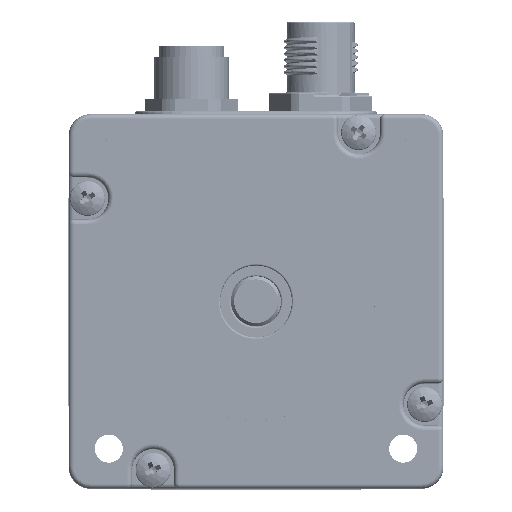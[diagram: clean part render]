
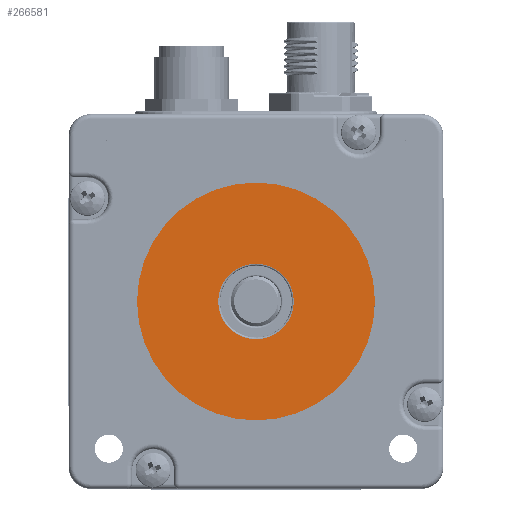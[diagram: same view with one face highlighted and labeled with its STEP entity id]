
A CAD part, top view. The second image highlights one B-rep face of the part: STEP entity #266581.
In plain terms, the highlighted planar face has unit normal (0, 0, 1).
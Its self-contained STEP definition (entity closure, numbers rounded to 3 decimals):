
#6707 = CARTESIAN_POINT ( 'NONE',  ( -98.952, 46.681, 35.1 ) ) ;
#18298 = AXIS2_PLACEMENT_3D ( 'NONE', #197115, #174592, #70292 ) ;
#24682 = ORIENTED_EDGE ( 'NONE', *, *, #243510, .T. ) ;
#25678 = DIRECTION ( 'NONE',  ( 0., 0., 1. ) ) ;
#28456 = FACE_OUTER_BOUND ( 'NONE', #83770, .T. ) ;
#35547 = DIRECTION ( 'NONE',  ( 0., 0., 1. ) ) ;
#41129 = CARTESIAN_POINT ( 'NONE',  ( -98.952, 46.681, 35.1 ) ) ;
#45501 = AXIS2_PLACEMENT_3D ( 'NONE', #224238, #142596, #187629 ) ;
#47167 = EDGE_CURVE ( 'NONE', #252727, #256942, #256593, .T. ) ;
#54110 = AXIS2_PLACEMENT_3D ( 'NONE', #41129, #35547, #121416 ) ;
#70292 = DIRECTION ( 'NONE',  ( 1., 0., 0. ) ) ;
#74551 = CARTESIAN_POINT ( 'NONE',  ( -118.002, 46.681, 35.1 ) ) ;
#77004 = DIRECTION ( 'NONE',  ( 0., 0., 1. ) ) ;
#83770 = EDGE_LOOP ( 'NONE', ( #239906, #188032 ) ) ;
#92506 = DIRECTION ( 'NONE',  ( 1., 0., 0. ) ) ;
#105235 = CARTESIAN_POINT ( 'NONE',  ( -79.902, 46.681, 35.1 ) ) ;
#108058 = CARTESIAN_POINT ( 'NONE',  ( -105.002, 46.681, 35.1 ) ) ;
#119287 = EDGE_CURVE ( 'NONE', #256942, #252727, #175555, .T. ) ;
#121416 = DIRECTION ( 'NONE',  ( 1., 0., 0. ) ) ;
#142596 = DIRECTION ( 'NONE',  ( 0., 0., -1. ) ) ;
#149155 = EDGE_LOOP ( 'NONE', ( #239529, #24682 ) ) ;
#156656 = CARTESIAN_POINT ( 'NONE',  ( -98.952, 46.681, 35.1 ) ) ;
#162414 = CARTESIAN_POINT ( 'NONE',  ( -92.902, 46.681, 35.1 ) ) ;
#166664 = CIRCLE ( 'NONE', #18298, 6.05 ) ;
#166900 = AXIS2_PLACEMENT_3D ( 'NONE', #6707, #77004, #92506 ) ;
#166990 = CIRCLE ( 'NONE', #45501, 6.05 ) ;
#174592 = DIRECTION ( 'NONE',  ( 0., 0., -1. ) ) ;
#175555 = CIRCLE ( 'NONE', #54110, 19.05 ) ;
#179216 = PLANE ( 'NONE',  #218109 ) ;
#187629 = DIRECTION ( 'NONE',  ( 1., 0., 0. ) ) ;
#188032 = ORIENTED_EDGE ( 'NONE', *, *, #47167, .T. ) ;
#197115 = CARTESIAN_POINT ( 'NONE',  ( -98.952, 46.681, 35.1 ) ) ;
#199659 = VERTEX_POINT ( 'NONE', #162414 ) ;
#218109 = AXIS2_PLACEMENT_3D ( 'NONE', #156656, #25678, #262211 ) ;
#224238 = CARTESIAN_POINT ( 'NONE',  ( -98.952, 46.681, 35.1 ) ) ;
#234414 = EDGE_CURVE ( 'NONE', #199659, #244658, #166990, .T. ) ;
#239529 = ORIENTED_EDGE ( 'NONE', *, *, #234414, .T. ) ;
#239906 = ORIENTED_EDGE ( 'NONE', *, *, #119287, .T. ) ;
#241077 = FACE_BOUND ( 'NONE', #149155, .T. ) ;
#243510 = EDGE_CURVE ( 'NONE', #244658, #199659, #166664, .T. ) ;
#244658 = VERTEX_POINT ( 'NONE', #108058 ) ;
#252727 = VERTEX_POINT ( 'NONE', #105235 ) ;
#256593 = CIRCLE ( 'NONE', #166900, 19.05 ) ;
#256942 = VERTEX_POINT ( 'NONE', #74551 ) ;
#262211 = DIRECTION ( 'NONE',  ( 1., 0., 0. ) ) ;
#266581 = ADVANCED_FACE ( 'NONE', ( #241077, #28456 ), #179216, .T. ) ;
